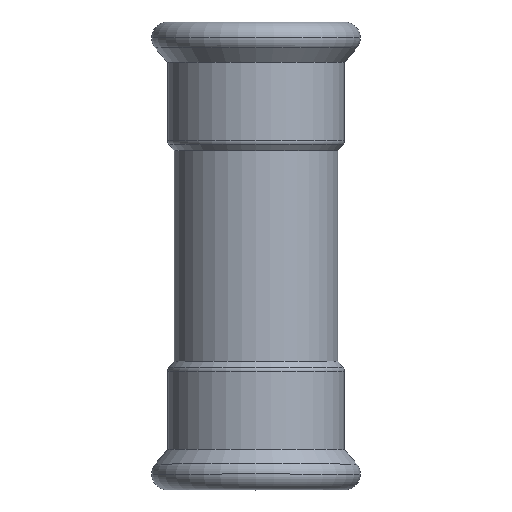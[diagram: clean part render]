
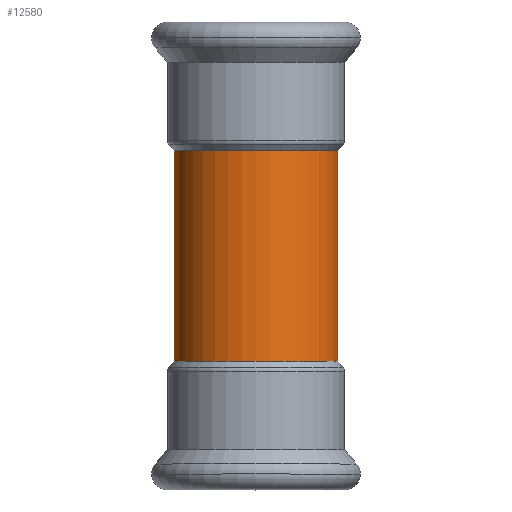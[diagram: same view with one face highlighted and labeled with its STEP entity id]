
A CAD part, top view. The second image highlights one B-rep face of the part: STEP entity #12580.
In plain terms, the highlighted cylindrical face has radius 21 mm (diameter 42 mm), a partial arc.
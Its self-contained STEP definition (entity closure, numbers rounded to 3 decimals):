
#4720=CARTESIAN_POINT('',(-319.291,7.435,
27.));
#4730=DIRECTION('',(0.,0.,1.));
#4740=DIRECTION('',(-1.,0.,0.));
#4750=AXIS2_PLACEMENT_3D('',#4720,#4730,#4740);
#4760=CYLINDRICAL_SURFACE('',#4750,21.);
#12220=CARTESIAN_POINT('',(-340.291,7.435,
27.));
#12230=DIRECTION('',(0.,0.,1.));
#12240=VECTOR('',#12230,1.);
#12250=LINE('',#12220,#12240);
#12260=CARTESIAN_POINT('',(-340.291,7.435,
-27.));
#12270=VERTEX_POINT('',#12260);
#12280=CARTESIAN_POINT('',(-340.291,7.435,
27.));
#12290=VERTEX_POINT('',#12280);
#12300=EDGE_CURVE('',#12270,#12290,#12250,.T.);
#12310=ORIENTED_EDGE('',*,*,#12300,.F.);
#12320=CARTESIAN_POINT('',(-319.291,7.435,
27.));
#12330=DIRECTION('',(0.,0.,1.));
#12340=DIRECTION('',(-1.,0.,0.));
#12350=AXIS2_PLACEMENT_3D('',#12320,#12330,#12340);
#12360=CIRCLE('',#12350,21.);
#12370=CARTESIAN_POINT('',(-298.291,7.435,
27.));
#12380=VERTEX_POINT('',#12370);
#12390=EDGE_CURVE('',#12290,#12380,#12360,.T.);
#12400=ORIENTED_EDGE('',*,*,#12390,.F.);
#12410=CARTESIAN_POINT('',(-298.291,7.435,
27.));
#12420=DIRECTION('',(0.,0.,1.));
#12430=VECTOR('',#12420,1.);
#12440=LINE('',#12410,#12430);
#12450=CARTESIAN_POINT('',(-298.291,7.435,
-27.));
#12460=VERTEX_POINT('',#12450);
#12470=EDGE_CURVE('',#12460,#12380,#12440,.T.);
#12480=ORIENTED_EDGE('',*,*,#12470,.T.);
#12490=CARTESIAN_POINT('',(-319.291,7.435,
-27.));
#12500=DIRECTION('',(0.,0.,1.));
#12510=DIRECTION('',(-1.,0.,0.));
#12520=AXIS2_PLACEMENT_3D('',#12490,#12500,#12510);
#12530=CIRCLE('',#12520,21.);
#12540=EDGE_CURVE('',#12270,#12460,#12530,.T.);
#12550=ORIENTED_EDGE('',*,*,#12540,.T.);
#12560=EDGE_LOOP('',(#12550,#12480,#12400,#12310));
#12570=FACE_OUTER_BOUND('',#12560,.T.);
#12580=ADVANCED_FACE('',(#12570),#4760,.T.);
